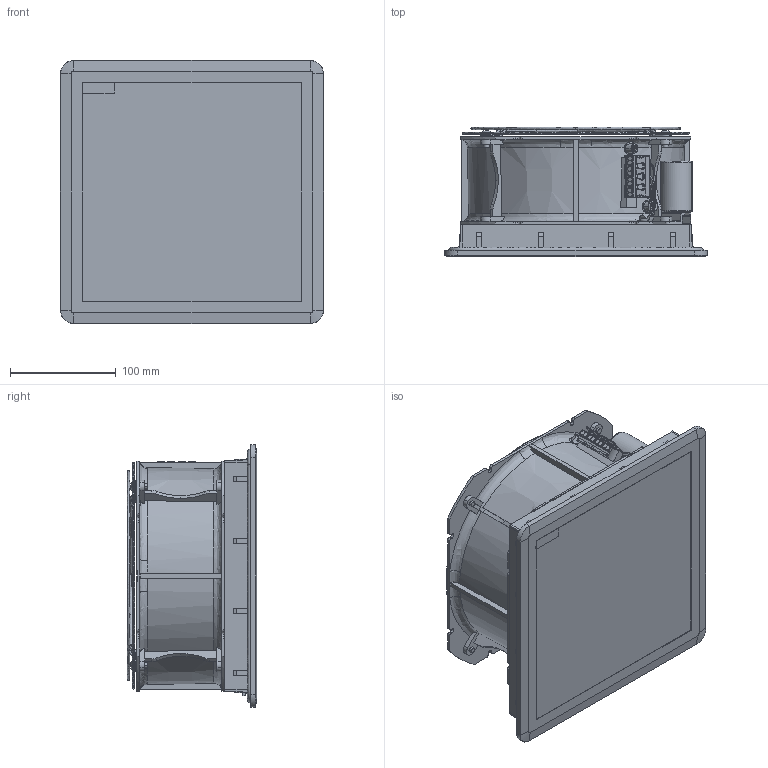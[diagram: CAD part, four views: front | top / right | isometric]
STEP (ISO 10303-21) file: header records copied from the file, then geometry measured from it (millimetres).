
FILE_DESCRIPTION(/* description */ (''),/* implementation_level */ '2;1');
FILE_NAME(/* name */ 'FPB37B~1',/* time_stamp */ '2019-06-26T12:38:16+02:00',/* author */ (''),/* organization */ (''),/* preprocessor_version */ 'ST-DEVELOPER v14',/* originating_system */ '',/* authorisation */ '');
FILE_SCHEMA (('CONFIG_CONTROL_DESIGN'));
Length unit declared in the file: millimetre
Products named in the file (1): Document
Bounding box: 249.31 x 122.67 x 249.31 mm (x, y, z)
Volume: 36085.7 mm3; surface area: 282950.4 mm2
Topology: 5 solids, 13 shells, 1339 faces, 4415 edges, 2970 vertices
Faces by surface type: plane 686, bspline 653
Entity records: 91114 total; most frequent: CARTESIAN_POINT 66126, ORIENTED_EDGE 8471, EDGE_CURVE 4418, VERTEX_POINT 2972, B_SPLINE_CURVE_WITH_KNOTS 2644, EDGE_LOOP 1479, ADVANCED_FACE 1338, FACE_OUTER_BOUND 1338
